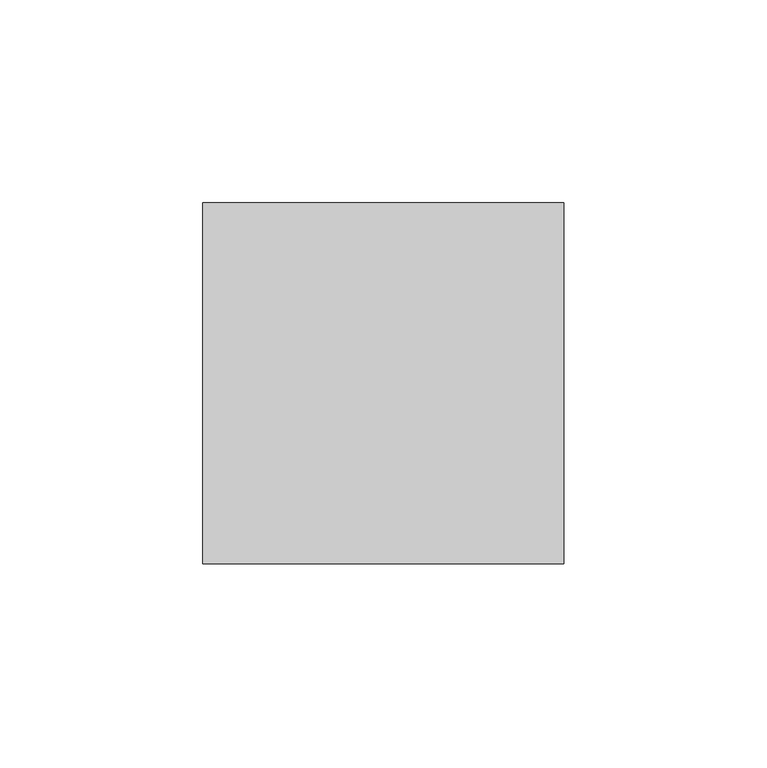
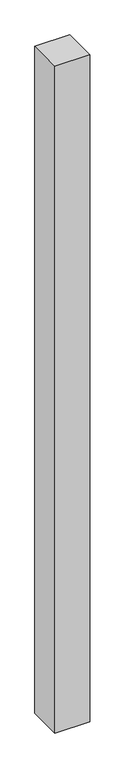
"""IFC4 building model written with IfcOpenShell, lengths in millimetres: column geometry, Trus Joist - TimberStrand LSL - Post Column : TimberStrand® 1.3E – 3 1/2 x 3 1/2”."""

from ifc_helpers import new_model, si_unit, frame, origin, place, context, project, spatial, polyline, outline, extrude, source, transform, mapped, element, save


def column_ff075027(model_context):
    return source(origin(), model_context, "Body", "SweptSolid", [
        extrude(outline(polyline([(44.45, 44.45), (44.45, -44.45), (-44.45, -44.45), (-44.45, 44.45), (44.45, 44.45)])), frame((0.0, 0.0, 6124.575), z_axis=(0.0, 0.0, 1.0), x_axis=(1.0, 0.0, 0.0)), (0.0, 0.0, 1.0), 1806.575),
    ])


if __name__ == "__main__":
    model = new_model("IFC4")
    model_context = context("Model", 3, world=origin())
    ifc_project = project(units=[si_unit("LENGTHUNIT", "METRE", prefix="MILLI")], contexts=[model_context])
    site = spatial("IfcSite", under=ifc_project)
    building = spatial("IfcBuilding", under=site)
    placement = place(None, origin())
    column_shape = column_ff075027(model_context)
    element("IfcColumn", 1, ObjectType="Trus Joist - TimberStrand LSL - Post Column : TimberStrand® 1.3E – 3 1/2 x 3 1/2”", at=placement, inside=building, context=model_context, shape_type="MappedRepresentation", body=[
        mapped(column_shape, transform((0.0, 0.0, 0.0), x_axis=(1.0, 0.0, 0.0), y_axis=(0.0, 1.0, 0.0), z_axis=(0.0, 0.0, 1.0))),
    ])
    save(model, "model.ifc")
